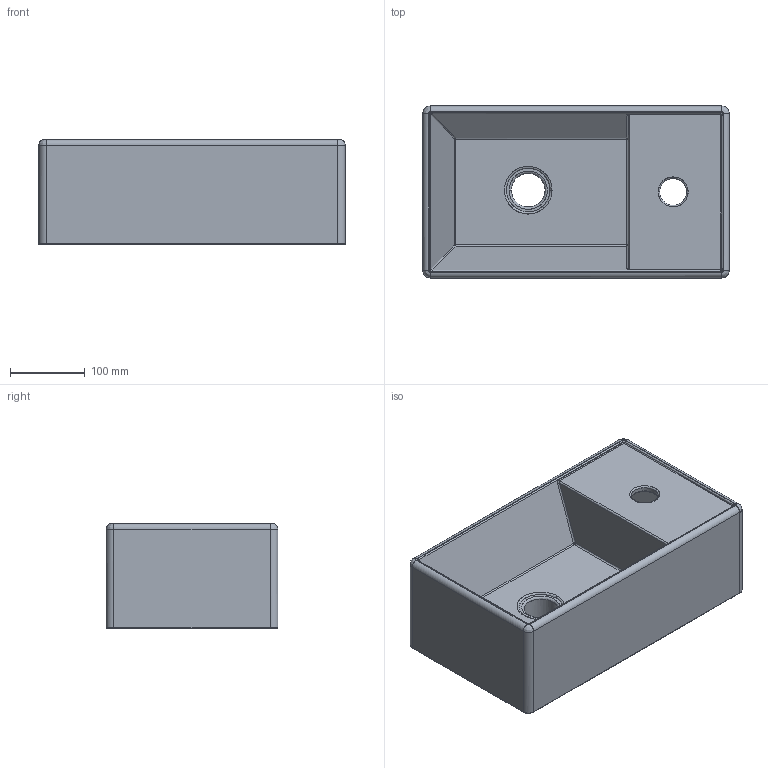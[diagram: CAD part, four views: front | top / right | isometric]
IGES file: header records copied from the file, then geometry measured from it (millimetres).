
Start section: C
Global section: file name: Teorema 41x23.igs; native system:  By UGS Corp.; preprocessor: XPlus GENERIC/IGES 3.0; author: Author; organization: Title; date: 20120604.125121; units: millimetre
Bounding box: 410 x 230 x 140 mm (x, y, z)
Surface area: 505986.6 mm2 (no closed solid volume)
Topology: 0 solids, 0 shells, 165 faces, 803 edges, 796 vertices
Faces by surface type: bspline 165
